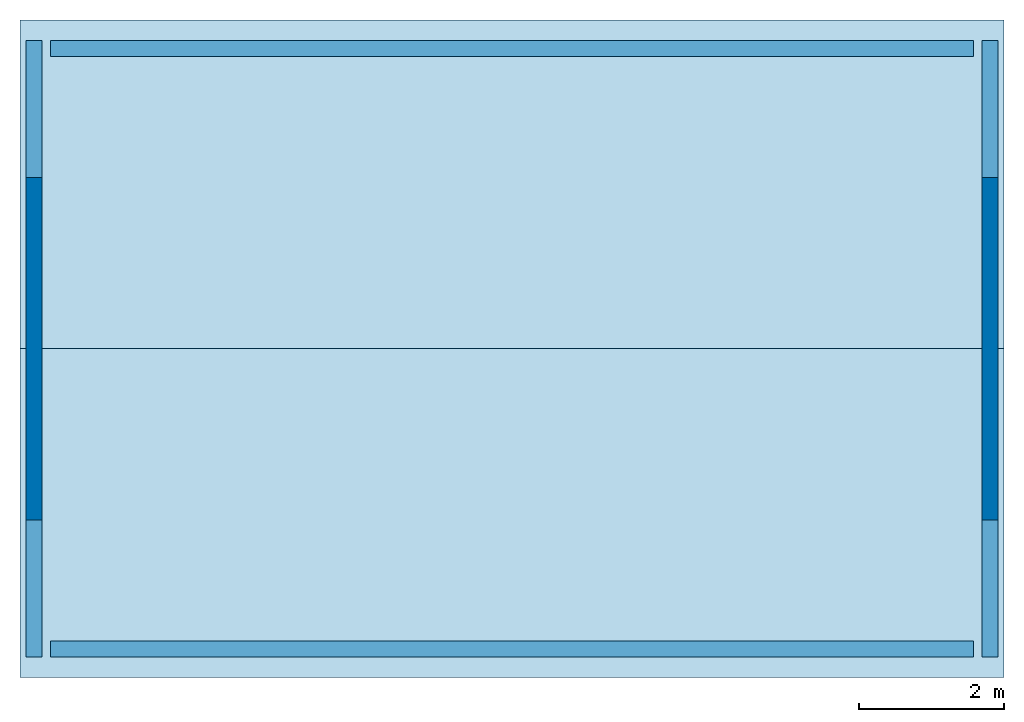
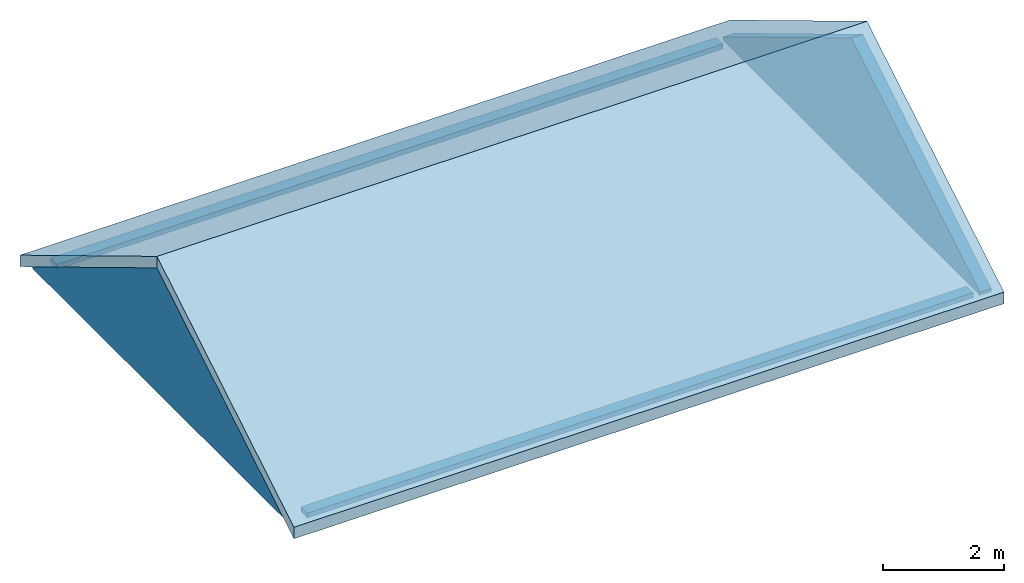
# One storey: 4 walls, 2 slabs, 1 element without a shape of its own.
"""IFC2X3 building model written with IfcOpenShell, lengths in metres."""

from ifc_helpers import new_model, entity, si_unit, converted_unit, derived_unit, direction, frame, frame_2d, origin, origin_2d_with_axis, place, context, subcontext, project, spatial, polyline, rectangle, extrude, clip, halfspace, bounded_halfspace, material, layer, layer_set, layer_usage, type_object, element, aggregate, save


model = new_model("IFC2X3")

# Units and contexts
model_context = context("Model", 3, precision=1e-05, world=origin(), true_north=direction((6.12303176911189e-17, 1.0)))
context_of_model = context(None, 3, precision=1e-05, world=origin(), true_north=direction((6.12303176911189e-17, 1.0)))
body_context = subcontext(model_context, "Body", "Model", "MODEL_VIEW")
ifc_project = project(units=[si_unit("LENGTHUNIT", "METRE"), si_unit("AREAUNIT", "SQUARE_METRE"), si_unit("VOLUMEUNIT", "CUBIC_METRE"), converted_unit("PLANEANGLEUNIT", "DEGREE", entity("IfcRatioMeasure", 0.0174532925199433), si_unit("PLANEANGLEUNIT", "RADIAN"), dimensions=[0, 0, 0, 0, 0, 0, 0]), si_unit("MASSUNIT", "GRAM", prefix="KILO"), si_unit("TIMEUNIT", "SECOND"), si_unit("FREQUENCYUNIT", "HERTZ"), si_unit("THERMODYNAMICTEMPERATUREUNIT", "DEGREE_CELSIUS"), derived_unit("THERMALTRANSMITTANCEUNIT", [(si_unit("MASSUNIT", "GRAM", prefix="KILO"), 1), (si_unit("THERMODYNAMICTEMPERATUREUNIT", "KELVIN"), -1), (si_unit("TIMEUNIT", "SECOND"), -3)]), derived_unit("VOLUMETRICFLOWRATEUNIT", [(si_unit("LENGTHUNIT", "METRE"), 3), (si_unit("TIMEUNIT", "SECOND"), -1)]), si_unit("ELECTRICCURRENTUNIT", "AMPERE"), si_unit("ELECTRICVOLTAGEUNIT", "VOLT"), si_unit("POWERUNIT", "WATT"), si_unit("FORCEUNIT", "NEWTON", prefix="KILO"), si_unit("ILLUMINANCEUNIT", "LUX"), si_unit("LUMINOUSFLUXUNIT", "LUMEN"), si_unit("LUMINOUSINTENSITYUNIT", "CANDELA"), derived_unit("USERDEFINED", [(si_unit("MASSUNIT", "GRAM", prefix="KILO"), -1), (si_unit("LENGTHUNIT", "METRE"), -2), (si_unit("TIMEUNIT", "SECOND"), 3), (si_unit("LUMINOUSFLUXUNIT", "LUMEN"), 1)]), derived_unit("LINEARVELOCITYUNIT", [(si_unit("LENGTHUNIT", "METRE"), 1), (si_unit("TIMEUNIT", "SECOND"), -1)]), si_unit("PRESSUREUNIT", "PASCAL"), derived_unit("USERDEFINED", [(si_unit("LENGTHUNIT", "METRE"), -2), (si_unit("MASSUNIT", "GRAM", prefix="KILO"), 1), (si_unit("TIMEUNIT", "SECOND"), -2)])], contexts=[model_context, context_of_model])

# Site, building, storey
site_placement = place(None, origin())
site = spatial("IfcSite", under=ifc_project, at=site_placement, Name="Surface", CompositionType="ELEMENT")
building_placement = place(site_placement, origin())
building = spatial("IfcBuilding", under=site, at=building_placement, CompositionType="ELEMENT")
storey_placement = place(building_placement, frame((0.0, 0.0, 5.3)))
storey = spatial("IfcBuildingStorey", under=building, at=storey_placement, Name="Plan de couverture", CompositionType="ELEMENT", Elevation=5.3)

# Roof, slabs
roof_placement = place(storey_placement, frame((-11.7160888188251, -3.09574421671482, -0.100258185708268)))
roof = element("IfcRoof", 1, at=roof_placement, inside=storey, Name="Toit de base:Toit - 200 mm", ObjectType="Toit de base:Toit - 200 mm", ShapeType="NOTDEFINED")
ifc_material_1 = material(Name="Toit par défaut")
ifc_layer_1 = layer(ifc_material_1, 0.2)
ifc_layer_set_1 = layer_set([ifc_layer_1], Name="Toit de base:Toit - 200 mm")
slab_1_placement = place(roof_placement, origin())
slab_1 = element("IfcSlab", 2, at=slab_1_placement, material=ifc_layer_set_1, Name="Toit de base:Toit - 200 mm", ObjectType="Toit de base:Toit - 200 mm", PredefinedType="ROOF", context=body_context, shape_type="SweptSolid", body=[
    extrude(rectangle(XDim=13.56, YDim=5.28484928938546, at=origin_2d_with_axis()), frame((6.77999999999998, 6.79500000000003, 1.36094930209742), z_axis=(0.0, 0.515038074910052, 0.857167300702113), x_axis=(1.0, 0.0, 0.0)), (0.0, -0.515038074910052, 0.857167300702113), 0.233326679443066),
])
slab_2_placement = place(roof_placement, origin())
slab_2 = element("IfcSlab", 3, at=slab_2_placement, material=ifc_layer_set_1, Name="Toit de base:Toit - 200 mm", ObjectType="Toit de base:Toit - 200 mm", PredefinedType="ROOF", context=body_context, shape_type="SweptSolid", body=[
    extrude(rectangle(XDim=5.28484928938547, YDim=13.56, at=frame_2d((0.0, 0.0), x_axis=(0.0, 1.0))), frame((6.77999999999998, 2.26500000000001, 1.36094930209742), z_axis=(0.0, -0.515038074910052, 0.857167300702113), x_axis=(1.0, 0.0, 0.0)), (0.0, 0.515038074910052, 0.857167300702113), 0.233326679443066),
])
aggregate(roof, [slab_1, slab_2])

# Walls
ifc_material_2 = material(Name="Maçonnerie - Enduit")
ifc_layer_2 = layer(ifc_material_2, 0.02)
ifc_material_3 = material(Name="Maçonnerie - Parpaing")
ifc_layer_3 = layer(ifc_material_3, 0.2)
ifc_material_4 = material(Name="Maçonnerie - Isolant")
ifc_layer_4 = layer(ifc_material_4, 0.11)
ifc_material_5 = material(Name="Maçonnerie - Isolant 1")
ifc_layer_5 = layer(ifc_material_5, 0.01)
ifc_layer_set_2 = layer_set([ifc_layer_2, ifc_layer_3, ifc_layer_4, ifc_layer_5], Name="Mur de base:Mur de base Ext. Parpaing 20 + Isolant 12")
ifc_layer_usage_1 = layer_usage(ifc_layer_set_2, "AXIS2", "NEGATIVE", 0.17)
wall_type_1 = type_object("IfcWallType", Name="Mur de base:Mur de base Ext. Parpaing 20 + Isolant 12", PredefinedType="STANDARD", material=ifc_layer_set_2)
wall_1_placement = place(storey_placement, frame((-11.2960888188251, 5.51425578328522, 0.0)))
element("IfcWallStandardCase", 4, at=wall_1_placement, inside=storey, type_object=wall_type_1, material=ifc_layer_usage_1, Name="Mur de base:Mur de base Ext. Parpaing 20 + Isolant 12", ObjectType="Mur de base:Mur de base Ext. Parpaing 20 + Isolant 12", context=body_context, shape_type="Clipping", body=[
    clip(clip(extrude(rectangle(XDim=12.72, YDim=0.340000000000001, at=frame_2d((6.35999999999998, 0.0), x_axis=(-1.0, 0.0))), origin(), (0.0, 0.0, 1.0), 0.100000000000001), bounded_halfspace(frame((0.0, -0.169999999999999, -0.0599999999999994)), False, frame((0.0, -0.169999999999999, -0.0599999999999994)), polyline([(0.0, 0.0), (6.21999999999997, 0.0), (6.49999999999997, 0.0), (12.72, 0.0), (12.72, 0.119999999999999), (0.0, 0.119999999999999), (0.0, 0.0)]))), halfspace(frame((0.0, 0.0, -2.56)), True)),
])
ifc_layer_usage_2 = layer_usage(ifc_layer_set_2, "AXIS2", "NEGATIVE", 0.17)
wall_2_placement = place(storey_placement, frame((1.42391118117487, -2.64574421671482, 0.0), z_axis=(0.0, 0.0, 1.0), x_axis=(-1.0, 0.0, 0.0)))
element("IfcWallStandardCase", 5, at=wall_2_placement, inside=storey, type_object=wall_type_1, material=ifc_layer_usage_2, Name="Mur de base:Mur de base Ext. Parpaing 20 + Isolant 12", ObjectType="Mur de base:Mur de base Ext. Parpaing 20 + Isolant 12", context=body_context, shape_type="Clipping", body=[
    clip(clip(extrude(rectangle(XDim=12.72, YDim=0.34, at=frame_2d((6.35999999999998, 0.0), x_axis=(-1.0, 0.0))), origin(), (0.0, 0.0, 1.0), 0.100000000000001), bounded_halfspace(frame((0.0, -0.17, -0.0599999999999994), z_axis=(0.0, 0.0, 1.0), x_axis=(-1.0, 0.0, 0.0)), False, frame((0.0, -0.17, -0.0599999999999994)), polyline([(0.0, 0.0), (6.22, 0.0), (6.5, 0.0), (12.72, 0.0), (12.72, 0.12), (0.0, 0.12), (0.0, 0.0)]))), halfspace(frame((0.0, 0.0, -2.56)), True)),
])
ifc_layer_6 = layer(ifc_material_2, 0.02)
ifc_layer_7 = layer(ifc_material_3, 0.2)
ifc_layer_set_3 = layer_set([ifc_layer_6, ifc_layer_7], Name="Mur de base:Mur de base Ext. Parpaing 20")
ifc_layer_usage_3 = layer_usage(ifc_layer_set_3, "AXIS2", "NEGATIVE", 0.11)
wall_type_2 = type_object("IfcWallType", Name="Mur de base:Mur de base Ext. Parpaing 20", PredefinedType="STANDARD", material=ifc_layer_set_3)
wall_3_placement = place(storey_placement, frame((1.65391118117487, 5.68425578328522, 0.0), z_axis=(0.0, 0.0, 1.0), x_axis=(0.0, -1.0, 0.0)))
element("IfcWallStandardCase", 6, at=wall_3_placement, inside=storey, type_object=wall_type_2, material=ifc_layer_usage_3, Name="Mur de base:Mur de base Ext. Parpaing 20", ObjectType="Mur de base:Mur de base Ext. Parpaing 20", context=body_context, shape_type="Clipping", body=[
    clip(clip(extrude(rectangle(XDim=8.50000000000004, YDim=0.22, at=frame_2d((4.25000000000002, 0.0), x_axis=(-1.0, 0.0))), origin(), (0.0, 0.0, 1.0), 2.62164041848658), bounded_halfspace(frame((0.0, -0.11, 0.067982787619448), z_axis=(-0.515038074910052, 0.0, 0.857167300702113), x_axis=(0.0, -1.0, 0.0)), False, frame((0.0, -0.11, 0.067982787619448)), polyline([(0.0, 0.0), (4.25000000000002, 0.0), (4.25000000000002, 0.22), (0.0, 0.22), (0.0, 0.0)]))), bounded_halfspace(frame((4.25000000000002, -0.11, 2.62164041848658), z_axis=(0.515038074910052, 0.0, 0.857167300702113), x_axis=(0.0, 1.0, 0.0)), False, frame((4.25000000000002, -0.11, 2.62164041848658)), polyline([(0.0, 0.0), (4.25000000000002, 0.0), (4.25000000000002, 0.22), (0.0, 0.22), (0.0, 0.0)]))),
])
ifc_layer_usage_4 = layer_usage(ifc_layer_set_3, "AXIS2", "NEGATIVE", 0.11)
wall_4_placement = place(storey_placement, frame((-11.5260888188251, -2.81574421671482, 0.0), z_axis=(0.0, 0.0, 1.0), x_axis=(0.0, 1.0, 0.0)))
element("IfcWallStandardCase", 7, at=wall_4_placement, inside=storey, type_object=wall_type_2, material=ifc_layer_usage_4, Name="Mur de base:Mur de base Ext. Parpaing 20", ObjectType="Mur de base:Mur de base Ext. Parpaing 20", context=body_context, shape_type="Clipping", body=[
    clip(clip(extrude(rectangle(XDim=8.50000000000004, YDim=0.220000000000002, at=frame_2d((4.25000000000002, 0.0), x_axis=(-1.0, 0.0))), origin(), (0.0, 0.0, 1.0), 2.62164041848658), bounded_halfspace(frame((4.25000000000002, -0.109999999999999, 2.62164041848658), z_axis=(0.515038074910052, 0.0, 0.857167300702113), x_axis=(0.0, 1.0, 0.0)), False, frame((4.25000000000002, -0.109999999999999, 2.62164041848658)), polyline([(0.0, 0.0), (4.25000000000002, 0.0), (4.25000000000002, 0.22), (0.0, 0.22), (0.0, 0.0)]))), bounded_halfspace(frame((0.0, -0.109999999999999, 0.0679827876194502), z_axis=(-0.515038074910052, 0.0, 0.857167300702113), x_axis=(0.0, -1.0, 0.0)), False, frame((0.0, -0.109999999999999, 0.0679827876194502)), polyline([(0.0, 0.0), (4.25000000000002, 0.0), (4.25000000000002, 0.22), (0.0, 0.22), (0.0, 0.0)]))),
])

save(model, "model.ifc")
